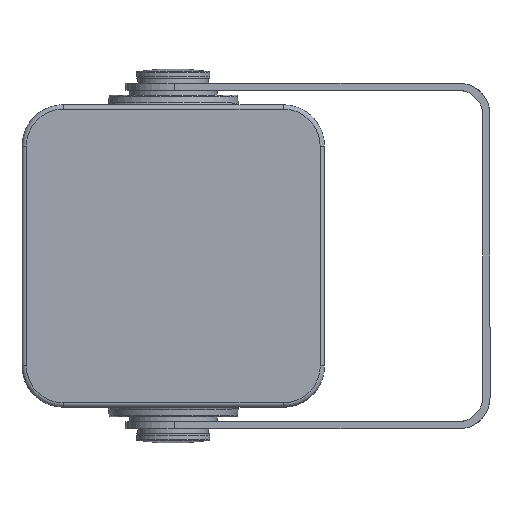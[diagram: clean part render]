
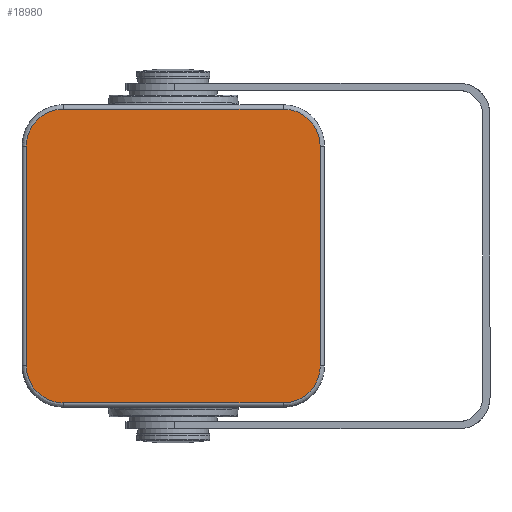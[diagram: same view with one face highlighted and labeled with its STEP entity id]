
A CAD part, front view. The second image highlights one B-rep face of the part: STEP entity #18980.
In plain terms, the highlighted planar face has unit normal (0, -1, 0).
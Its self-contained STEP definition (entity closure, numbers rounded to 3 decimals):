
#1158=B_SPLINE_CURVE_WITH_KNOTS('',3,(#29411,#29412,#29413,#29414,#29415,
#29416,#29417),.UNSPECIFIED.,.F.,.F.,(4,1,1,1,4),(0.,0.25,0.5,0.75,1.),
 .UNSPECIFIED.);
#1159=B_SPLINE_CURVE_WITH_KNOTS('',3,(#29422,#29423,#29424,#29425,#29426,
#29427,#29428),.UNSPECIFIED.,.F.,.F.,(4,1,1,1,4),(0.,0.25,0.5,0.75,1.),
 .UNSPECIFIED.);
#1160=B_SPLINE_CURVE_WITH_KNOTS('',3,(#29432,#29433,#29434,#29435,#29436,
#29437,#29438),.UNSPECIFIED.,.F.,.F.,(4,1,1,1,4),(0.,0.25,0.5,0.75,1.),
 .UNSPECIFIED.);
#1161=B_SPLINE_CURVE_WITH_KNOTS('',3,(#29442,#29443,#29444,#29445,#29446,
#29447,#29448),.UNSPECIFIED.,.F.,.F.,(4,1,1,1,4),(0.,0.25,0.5,0.75,1.),
 .UNSPECIFIED.);
#2188=LINE('',#29420,#2904);
#2189=LINE('',#29430,#2905);
#2190=LINE('',#29440,#2906);
#2191=LINE('',#29450,#2907);
#2904=VECTOR('',#23202,1000.);
#2905=VECTOR('',#23203,1000.);
#2906=VECTOR('',#23204,1000.);
#2907=VECTOR('',#23205,1000.);
#3572=PLANE('',#20667);
#4298=ORIENTED_EDGE('',*,*,#10124,.T.);
#4299=ORIENTED_EDGE('',*,*,#10125,.T.);
#4300=ORIENTED_EDGE('',*,*,#10126,.T.);
#4301=ORIENTED_EDGE('',*,*,#10127,.T.);
#4302=ORIENTED_EDGE('',*,*,#10128,.T.);
#4303=ORIENTED_EDGE('',*,*,#10129,.T.);
#4304=ORIENTED_EDGE('',*,*,#10130,.T.);
#4305=ORIENTED_EDGE('',*,*,#10131,.T.);
#10124=EDGE_CURVE('',#13057,#13058,#1158,.T.);
#10125=EDGE_CURVE('',#13058,#13059,#2188,.F.);
#10126=EDGE_CURVE('',#13059,#13060,#1159,.T.);
#10127=EDGE_CURVE('',#13060,#13061,#2189,.F.);
#10128=EDGE_CURVE('',#13061,#13062,#1160,.T.);
#10129=EDGE_CURVE('',#13062,#13063,#2190,.F.);
#10130=EDGE_CURVE('',#13063,#13064,#1161,.T.);
#10131=EDGE_CURVE('',#13064,#13057,#2191,.F.);
#13057=VERTEX_POINT('',#29418);
#13058=VERTEX_POINT('',#29419);
#13059=VERTEX_POINT('',#29421);
#13060=VERTEX_POINT('',#29429);
#13061=VERTEX_POINT('',#29431);
#13062=VERTEX_POINT('',#29439);
#13063=VERTEX_POINT('',#29441);
#13064=VERTEX_POINT('',#29449);
#15588=EDGE_LOOP('',(#4298,#4299,#4300,#4301,#4302,#4303,#4304,#4305));
#17133=FACE_BOUND('',#15588,.T.);
#18980=ADVANCED_FACE('',(#17133),#3572,.T.);
#20667=AXIS2_PLACEMENT_3D('',#29410,#23200,#23201);
#23200=DIRECTION('',(0.,-1.,0.));
#23201=DIRECTION('',(0.,0.,-1.));
#23202=DIRECTION('',(1.,0.,0.));
#23203=DIRECTION('',(0.,0.,1.));
#23204=DIRECTION('',(-1.,0.,0.));
#23205=DIRECTION('',(0.,0.,-1.));
#29410=CARTESIAN_POINT('',(-45.11,-6.3,-45.11));
#29411=CARTESIAN_POINT('',(60.278,-6.3,45.111));
#29412=CARTESIAN_POINT('',(60.278,-6.3,47.111));
#29413=CARTESIAN_POINT('',(59.48,-6.3,51.08));
#29414=CARTESIAN_POINT('',(56.111,-6.3,56.117));
#29415=CARTESIAN_POINT('',(51.065,-6.3,59.488));
#29416=CARTESIAN_POINT('',(47.099,-6.3,60.278));
#29417=CARTESIAN_POINT('',(45.111,-6.3,60.278));
#29418=CARTESIAN_POINT('',(60.278,-6.3,45.11));
#29419=CARTESIAN_POINT('',(45.11,-6.3,60.278));
#29420=CARTESIAN_POINT('',(-45.11,-6.3,60.278));
#29421=CARTESIAN_POINT('',(-45.11,-6.3,60.278));
#29422=CARTESIAN_POINT('',(-45.111,-6.3,60.278));
#29423=CARTESIAN_POINT('',(-47.111,-6.3,60.278));
#29424=CARTESIAN_POINT('',(-51.08,-6.3,59.48));
#29425=CARTESIAN_POINT('',(-56.117,-6.3,56.111));
#29426=CARTESIAN_POINT('',(-59.488,-6.3,51.065));
#29427=CARTESIAN_POINT('',(-60.278,-6.3,47.099));
#29428=CARTESIAN_POINT('',(-60.278,-6.3,45.111));
#29429=CARTESIAN_POINT('',(-60.278,-6.3,45.11));
#29430=CARTESIAN_POINT('',(-60.278,-6.3,-45.11));
#29431=CARTESIAN_POINT('',(-60.278,-6.3,-45.11));
#29432=CARTESIAN_POINT('',(-60.278,-6.3,-45.111));
#29433=CARTESIAN_POINT('',(-60.278,-6.3,-47.111));
#29434=CARTESIAN_POINT('',(-59.48,-6.3,-51.08));
#29435=CARTESIAN_POINT('',(-56.111,-6.3,-56.117));
#29436=CARTESIAN_POINT('',(-51.065,-6.3,-59.488));
#29437=CARTESIAN_POINT('',(-47.099,-6.3,-60.278));
#29438=CARTESIAN_POINT('',(-45.111,-6.3,-60.278));
#29439=CARTESIAN_POINT('',(-45.11,-6.3,-60.278));
#29440=CARTESIAN_POINT('',(-45.11,-6.3,-60.278));
#29441=CARTESIAN_POINT('',(45.11,-6.3,-60.278));
#29442=CARTESIAN_POINT('',(45.111,-6.3,-60.278));
#29443=CARTESIAN_POINT('',(47.111,-6.3,-60.278));
#29444=CARTESIAN_POINT('',(51.08,-6.3,-59.48));
#29445=CARTESIAN_POINT('',(56.117,-6.3,-56.111));
#29446=CARTESIAN_POINT('',(59.488,-6.3,-51.065));
#29447=CARTESIAN_POINT('',(60.278,-6.3,-47.099));
#29448=CARTESIAN_POINT('',(60.278,-6.3,-45.111));
#29449=CARTESIAN_POINT('',(60.278,-6.3,-45.11));
#29450=CARTESIAN_POINT('',(60.278,-6.3,-45.11));
